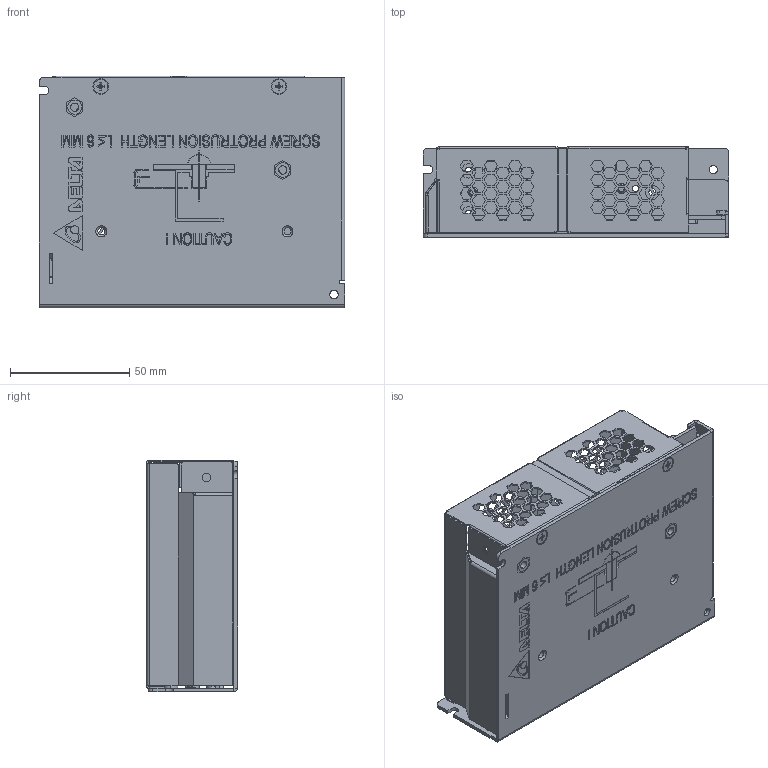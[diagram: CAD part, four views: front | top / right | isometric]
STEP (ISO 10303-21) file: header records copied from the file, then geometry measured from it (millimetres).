
FILE_DESCRIPTION((''),'2;1');
FILE_NAME('PMC-12V050W1AA_ASM','2012-04-20T',('Manop.Pr'),(''),'PRO/ENGINEER BY PARAMETRIC TECHNOLOGY CORPORATION, 2010180','PRO/ENGINEER BY PARAMETRIC TECHNOLOGY CORPORATION, 2010180','');
FILE_SCHEMA(('CONFIG_CONTROL_DESIGN','SHAPE_APPEARANCE_LAYERS_GROUPS'));
Products named in the file (18): 331609630101; 331609630101_A_STUD; 331609630101_ASM; 331602180101; 326203870304; 3268095800; 2958037306_PWB; 307049747W_A_BODY; 307049747W_A_SCREW; 307049747W_ASM; EE_VR_A_BODY; EE_VR_A_LEG; EE_VR_ASM; EE_LED1_; ASSY_PWB_ASM; 3100001200; 3100000400; PMC-12V050W1AA_ASM
Assembly tree (28 placements, depth 4):
  PMC-12V050W1AA_ASM
    331609630101_ASM
      331609630101
      331609630101_A_STUD  x2
    331602180101
    326203870304
    3268095800
    ASSY_PWB_ASM
      2958037306_PWB
      307049747W_ASM
        307049747W_A_BODY
        307049747W_A_SCREW  x5
      EE_VR_ASM
        EE_VR_A_BODY
        EE_VR_A_LEG  x3
      EE_LED1_
    3100001200  x2
    3100000400  x4
Bounding box: 128 x 38.15 x 97.05 mm (x, y, z)
Volume: 61874.9 mm3; surface area: 107802.5 mm2
Topology: 24 solids, 24 shells, 5088 faces, 13626 edges, 8449 vertices
Faces by surface type: plane 3738, cylinder 500, extrusion 408, bspline 290, cone 132, torus 20
Entity records: 176837 total; most frequent: CARTESIAN_POINT 32035, ORIENTED_EDGE 23584, DIRECTION 19735, EDGE_CURVE 11792, PRESENTATION_STYLE_ASSIGNMENT 11606, STYLED_ITEM 11421, CURVE_STYLE 11412, VECTOR 10413
